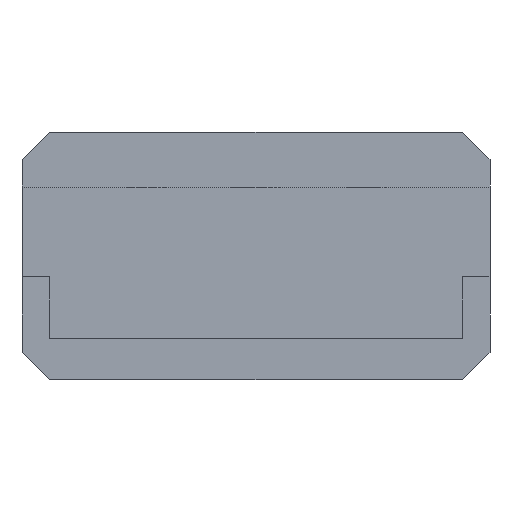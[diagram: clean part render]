
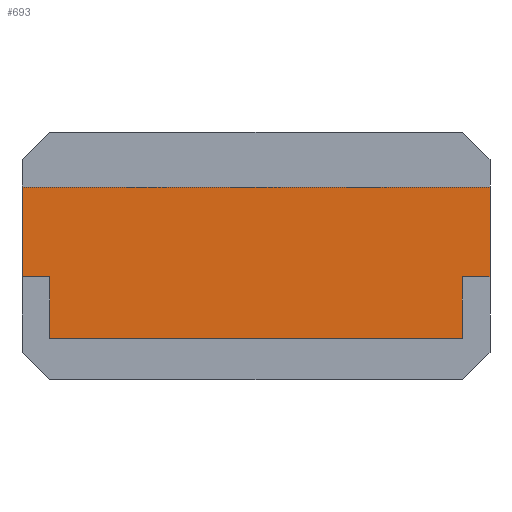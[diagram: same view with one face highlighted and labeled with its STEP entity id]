
A CAD part, left-side view. The second image highlights one B-rep face of the part: STEP entity #693.
In plain terms, the highlighted planar face has unit normal (-1, 0, 0).
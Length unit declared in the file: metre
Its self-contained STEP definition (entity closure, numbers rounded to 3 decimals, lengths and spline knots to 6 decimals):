
#100=ORIENTED_EDGE('',*,*,#264,.F.);
#101=ORIENTED_EDGE('',*,*,#273,.F.);
#102=ORIENTED_EDGE('',*,*,#274,.F.);
#103=ORIENTED_EDGE('',*,*,#275,.T.);
#104=ORIENTED_EDGE('',*,*,#276,.T.);
#105=ORIENTED_EDGE('',*,*,#277,.F.);
#106=ORIENTED_EDGE('',*,*,#267,.T.);
#107=ORIENTED_EDGE('',*,*,#272,.F.);
#264=EDGE_CURVE('',#349,#350,#411,.T.);
#267=EDGE_CURVE('',#352,#351,#414,.T.);
#272=EDGE_CURVE('',#350,#351,#416,.T.);
#273=EDGE_CURVE('',#317,#349,#417,.T.);
#274=EDGE_CURVE('',#310,#317,#418,.T.);
#275=EDGE_CURVE('',#310,#307,#419,.T.);
#276=EDGE_CURVE('',#307,#347,#420,.T.);
#277=EDGE_CURVE('',#352,#347,#421,.T.);
#307=VERTEX_POINT('',#980);
#310=VERTEX_POINT('',#988);
#317=VERTEX_POINT('',#1002);
#347=VERTEX_POINT('',#1074);
#349=VERTEX_POINT('',#1080);
#350=VERTEX_POINT('',#1082);
#351=VERTEX_POINT('',#1086);
#352=VERTEX_POINT('',#1088);
#411=LINE('',#1081,#491);
#414=LINE('',#1087,#494);
#416=LINE('',#1097,#496);
#417=LINE('',#1099,#497);
#418=LINE('',#1100,#498);
#419=LINE('',#1101,#499);
#420=LINE('',#1102,#500);
#421=LINE('',#1103,#501);
#491=VECTOR('',#865,1.);
#494=VECTOR('',#870,1.);
#496=VECTOR('',#880,1.);
#497=VECTOR('',#883,1.);
#498=VECTOR('',#884,1.);
#499=VECTOR('',#885,1.);
#500=VECTOR('',#886,1.);
#501=VECTOR('',#887,1.);
#547=EDGE_LOOP('',(#100,#101,#102,#103,#104,#105,#106,#107));
#607=FACE_BOUND('',#547,.T.);
#658=PLANE('',#755);
#693=ADVANCED_FACE('',(#607),#658,.F.);
#755=AXIS2_PLACEMENT_3D('',#1098,#881,#882);
#865=DIRECTION('',(0.,0.,-1.));
#870=DIRECTION('',(0.,0.,-1.));
#880=DIRECTION('',(0.,1.,0.));
#881=DIRECTION('',(1.,0.,0.));
#882=DIRECTION('',(0.,-1.,0.));
#883=DIRECTION('',(0.,1.,0.));
#884=DIRECTION('',(0.,0.,-1.));
#885=DIRECTION('',(0.,1.,0.));
#886=DIRECTION('',(0.,0.,-1.));
#887=DIRECTION('',(0.,1.,0.));
#980=CARTESIAN_POINT('',(0.145,-0.162,-0.002999));
#988=CARTESIAN_POINT('',(0.145,-0.196,-0.002999));
#1002=CARTESIAN_POINT('',(0.145,-0.196,-0.00951));
#1074=CARTESIAN_POINT('',(0.145,-0.162,-0.00951));
#1080=CARTESIAN_POINT('',(0.145,-0.194,-0.00951));
#1081=CARTESIAN_POINT('',(0.145,-0.194,-0.01176));
#1082=CARTESIAN_POINT('',(0.145,-0.194,-0.01401));
#1086=CARTESIAN_POINT('',(0.145,-0.164,-0.01401));
#1087=CARTESIAN_POINT('',(0.145,-0.164,-0.01176));
#1088=CARTESIAN_POINT('',(0.145,-0.164,-0.00951));
#1097=CARTESIAN_POINT('',(0.145,-0.179,-0.01401));
#1098=CARTESIAN_POINT('',(0.145,-0.259,-0.00951));
#1099=CARTESIAN_POINT('',(0.145,-0.259,-0.00951));
#1100=CARTESIAN_POINT('',(0.145,-0.196,0.469457));
#1101=CARTESIAN_POINT('',(0.145,-0.259,-0.002999));
#1102=CARTESIAN_POINT('',(0.145,-0.162,0.469457));
#1103=CARTESIAN_POINT('',(0.145,-0.259,-0.00951));
